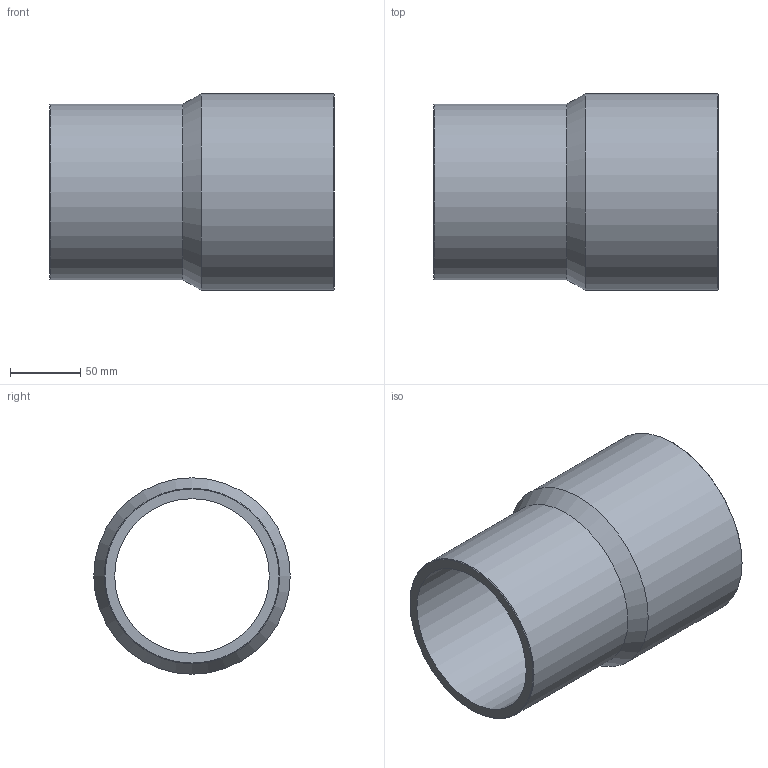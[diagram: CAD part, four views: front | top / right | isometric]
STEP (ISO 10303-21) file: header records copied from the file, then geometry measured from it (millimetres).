
FILE_DESCRIPTION(/* description */ ('Unknown'),/* implementation_level */ '2;1');
FILE_NAME(/* name */ 'RP140125B',/* time_stamp */ '2021-09-17T11:17:32+02:00',/* author */ ('Unknown'),/* organization */ ('Unknown'),/* preprocessor_version */ 'ST-DEVELOPER v16.7',/* originating_system */ 'Solid Edge',/* authorisation */ 'Unknown');
FILE_SCHEMA (('AUTOMOTIVE_DESIGN {1 0 10303 214 3 1 1}'));
Length unit declared in the file: millimetre
Products named in the file (1): RP140125B
Bounding box: 203 x 140 x 140 mm (x, y, z)
Volume: 630755.7 mm3; surface area: 166175.3 mm2
Topology: 1 solids, 1 shells, 10 faces, 19 edges, 11 vertices
Faces by surface type: cylinder 4, cone 4, plane 2
Full cylindrical faces by diameter (mm): 110.2 x1, 123.4 x1, 125 x1, 140 x1
Entity records: 238 total; most frequent: DIRECTION 42, CARTESIAN_POINT 31, AXIS2_PLACEMENT_3D 21, ORIENTED_EDGE 20, EDGE_LOOP 20, FACE_BOUND 20, EDGE_CURVE 10, VERTEX_POINT 10
